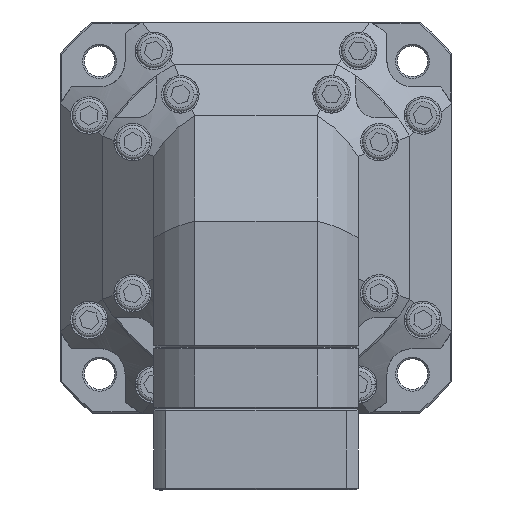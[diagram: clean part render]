
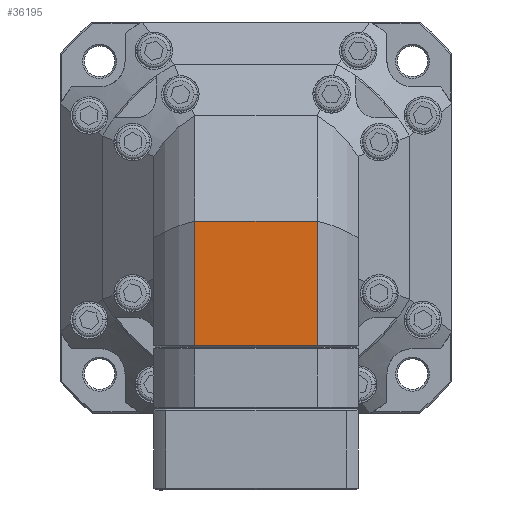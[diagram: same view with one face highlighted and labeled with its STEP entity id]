
A CAD part, front view. The second image highlights one B-rep face of the part: STEP entity #36195.
In plain terms, the highlighted planar face has unit normal (0, 1, 0).
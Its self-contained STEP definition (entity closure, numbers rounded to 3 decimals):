
#5964 = CARTESIAN_POINT ( 'NONE',  ( -18.028, -173.611, -19.14 ) ) ;
#7372 = EDGE_CURVE ( 'NONE', #64758, #36538, #34782, .T. ) ;
#10800 = CARTESIAN_POINT ( 'NONE',  ( 18.028, -173.611, -37.5 ) ) ;
#12166 = VECTOR ( 'NONE', #14846, 1000. ) ;
#14846 = DIRECTION ( 'NONE',  ( 0., 0., -1. ) ) ;
#18350 = DIRECTION ( 'NONE',  ( 1., 0., 0. ) ) ;
#19854 = AXIS2_PLACEMENT_3D ( 'NONE', #82905, #32042, #91394 ) ;
#29256 = ORIENTED_EDGE ( 'NONE', *, *, #44753, .T. ) ;
#30781 = CARTESIAN_POINT ( 'NONE',  ( 18.028, -173.611, -1. ) ) ;
#32042 = DIRECTION ( 'NONE',  ( 0., -1., 0. ) ) ;
#33556 = VECTOR ( 'NONE', #99054, 1000. ) ;
#34782 = LINE ( 'NONE', #48663, #12166 ) ;
#36195 = ADVANCED_FACE ( 'NONE', ( #38510 ), #48766, .F. ) ;
#36538 = VERTEX_POINT ( 'NONE', #10800 ) ;
#38510 = FACE_OUTER_BOUND ( 'NONE', #65428, .T. ) ;
#39777 = CARTESIAN_POINT ( 'NONE',  ( 0., -173.611, -1. ) ) ;
#40553 = VECTOR ( 'NONE', #18350, 1000. ) ;
#43794 = LINE ( 'NONE', #5964, #86276 ) ;
#44753 = EDGE_CURVE ( 'NONE', #106991, #64758, #103939, .T. ) ;
#48663 = CARTESIAN_POINT ( 'NONE',  ( 18.028, -173.611, -19.14 ) ) ;
#48766 = PLANE ( 'NONE',  #19854 ) ;
#48999 = DIRECTION ( 'NONE',  ( 0., 0., 1. ) ) ;
#62109 = EDGE_CURVE ( 'NONE', #70622, #36538, #63044, .T. ) ;
#63044 = LINE ( 'NONE', #95176, #40553 ) ;
#64758 = VERTEX_POINT ( 'NONE', #30781 ) ;
#65428 = EDGE_LOOP ( 'NONE', ( #74279, #77427, #104995, #29256 ) ) ;
#70622 = VERTEX_POINT ( 'NONE', #82364 ) ;
#74279 = ORIENTED_EDGE ( 'NONE', *, *, #7372, .T. ) ;
#77427 = ORIENTED_EDGE ( 'NONE', *, *, #62109, .F. ) ;
#82364 = CARTESIAN_POINT ( 'NONE',  ( -18.028, -173.611, -37.5 ) ) ;
#82905 = CARTESIAN_POINT ( 'NONE',  ( -18.028, -173.611, -37.5 ) ) ;
#86276 = VECTOR ( 'NONE', #48999, 1000. ) ;
#88021 = CARTESIAN_POINT ( 'NONE',  ( -18.028, -173.611, -1. ) ) ;
#91394 = DIRECTION ( 'NONE',  ( 1., 0., 0. ) ) ;
#95176 = CARTESIAN_POINT ( 'NONE',  ( 0., -173.611, -37.5 ) ) ;
#97695 = EDGE_CURVE ( 'NONE', #70622, #106991, #43794, .T. ) ;
#99054 = DIRECTION ( 'NONE',  ( 1., 0., 0. ) ) ;
#103939 = LINE ( 'NONE', #39777, #33556 ) ;
#104995 = ORIENTED_EDGE ( 'NONE', *, *, #97695, .T. ) ;
#106991 = VERTEX_POINT ( 'NONE', #88021 ) ;
